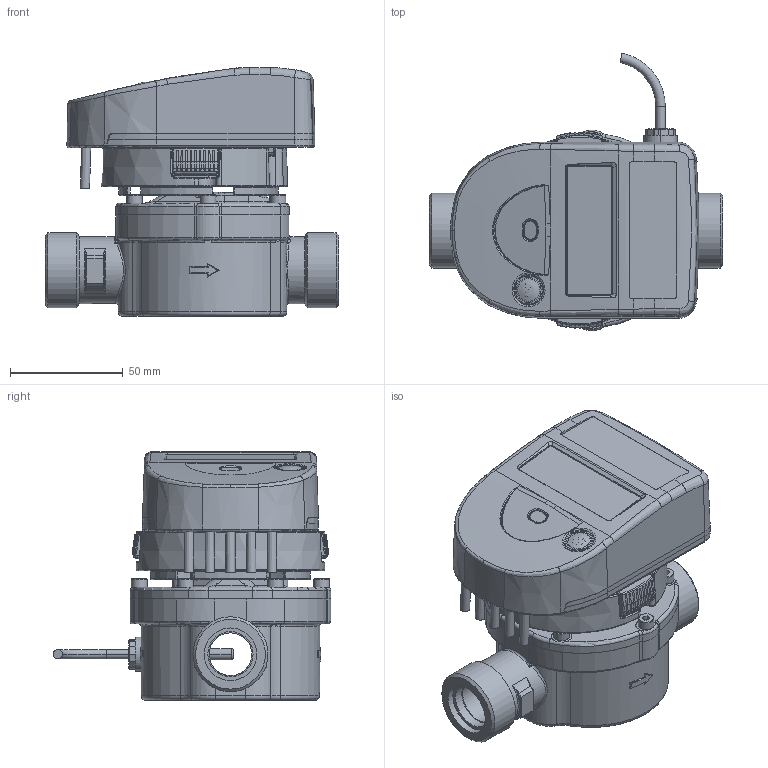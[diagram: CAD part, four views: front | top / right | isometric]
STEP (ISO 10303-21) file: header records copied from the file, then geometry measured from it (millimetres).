
FILE_DESCRIPTION(/* description */ ('Unknown'),/* implementation_level */ '2;1');
FILE_NAME(/* name */ '749 _qp1.5_130mm avec calculateur et sonde JUMO(vide) ',/* time_stamp */ '2022-09-16T11:28:21+02:00',/* author */ ('Unknown'),/* organization */ ('Unknown'),/* preprocessor_version */ 'ST-DEVELOPER v18.102',/* originating_system */ 'Solid Edge',/* authorisation */ 'Unknown');
FILE_SCHEMA (('AUTOMOTIVE_DESIGN {1 0 10303 214 3 1 1}'));
Length unit declared in the file: millimetre
Products named in the file (28): 749 _qp1.5_130mm avec calculateur et sonde JUMO(vide) ; 0739P028; 0739P070; 0739P025; 0739P026; 0739P201 (schématique); Bague_P201_P202_P203; 0739P201 Câble 3 (Schématique); 0739P201_202_203 _204; 0739P201 Overmoulding Flowmeter Side Flowmeter Cable_OUTIL3D; gaine intérieure longue; gaine intérieure courte; 0739P020; 0739P021; 0739P022; 0739P024; 0749P073; 0739P023; 0739P201_202_203 _204_better waterproof; 0449P094; 0449P070; 0449P071; 00759783_vente_sonde Ø5; 00759783_AllCATPart_4_0; 00759783_AllCATPart_5_0; 00759783_AllCATPart_7_0; Flat rubber ringSLDPRT_0; cable ﾘ4.2
Assembly tree (37 placements, depth 3):
  749 _qp1.5_130mm avec calculateur et sonde JUMO(vide) 
    0739P028  x2
    0739P070
    0739P025
    0739P026
    0739P201 (schématique)  x5
      Bague_P201_P202_P203
      0739P201 Câble 3 (Schématique)
      0739P201_202_203 _204
      0739P201 Overmoulding Flowmeter Side Flowmeter Cable_OUTIL3D
      gaine intérieure longue
      gaine intérieure courte
    0739P020
    0739P021
    0739P022
    0739P024
    0749P073
    0739P023
    0739P201_202_203 _204_better waterproof
    0449P094  x6
    0449P070
    0449P071
    00759783_vente_sonde Ø5
      00759783_AllCATPart_4_0
      00759783_AllCATPart_5_0
      00759783_AllCATPart_7_0
      Flat rubber ringSLDPRT_0
      cable ﾘ4.2
Bounding box: 130 x 123.07 x 110.38 mm (x, y, z)
Volume: 246013.5 mm3; surface area: 186545.6 mm2
Topology: 55 solids, 55 shells, 4452 faces, 11614 edges, 7267 vertices
Faces by surface type: plane 1860, cylinder 1368, torus 619, cone 383, bspline 164, sphere 58
Full cylindrical faces by diameter (mm): 0.5 x6, 1 x6, 2 x1, 2.013 x2, 2.05 x2, 2.4 x2, 2.5 x2, 2.6 x2, 2.7 x6, 2.742 x1, 3.1 x1, 3.242 x12, 4 x7, 4.1 x16, 4.4 x6, 4.5 x10, 4.9 x5, 5 x2, 5.2 x1, 6 x2, 6.5 x6, 7 x6, 7.4 x1, 8.5 x4, 9.15 x1, 9.7 x1, 11.7 x1, 12 x1, 15 x1, 19 x2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
Entity records: 140772 total; most frequent: CARTESIAN_POINT 37910, ORIENTED_EDGE 19490, DIRECTION 18106, EDGE_CURVE 9745, AXIS2_PLACEMENT_3D 7011, VERTEX_POINT 6184, FACE_BOUND 4163, EDGE_LOOP 4154
